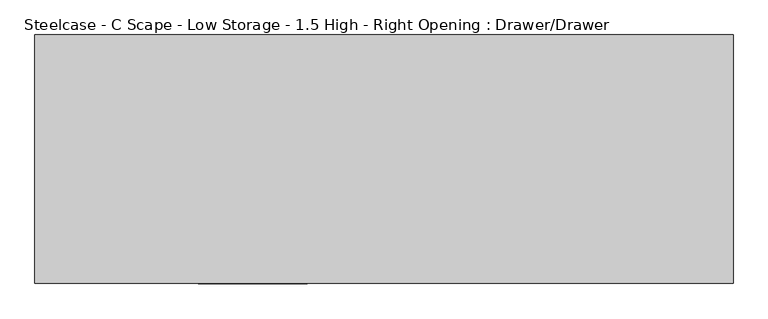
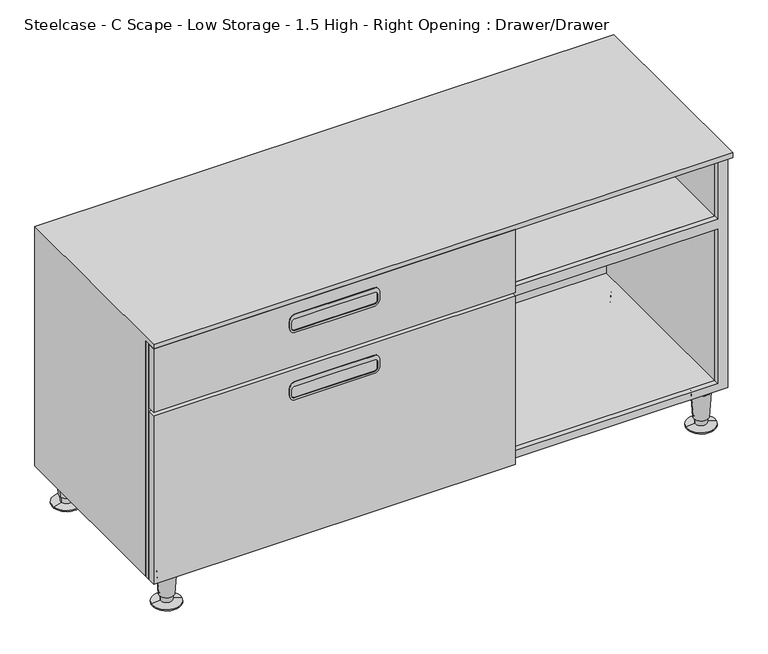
"""IFC4 building model written with IfcOpenShell, lengths in millimetres: furniture geometry, Steelcase - C Scape - Low Storage - 1.5 High - Right Opening : Drawer/Drawer."""

from ifc_helpers import new_model, si_unit, point, frame, frame_2d, origin, place, context, project, spatial, polyline, circle_curve, trimmed, segment, composite_curve, outline, extrude, faceted_brep, source, transform, mapped, element, save
from ifc_brep_helpers import plane_surface, cylinder_surface, revolved_surface, advanced_brep


def steelcase_c_scape_low_storage_1_5_high_right_opening_drawer_06f32d59(model_context):
    return source(origin(), model_context, "Body", "SolidModel", [
        advanced_brep(
        [(1200.2097985, -403.1210225, 0.0), (1141.9877015, -394.2130493, 0.0), (1171.09875, -398.6670359, 0.0), (1200.2097985, -403.1210225, 2.5119506), (1141.9877015, -394.2130493, 2.5119506), (1182.860915, -400.4666456, 5.7545598), (1159.336585, -396.8674262, 5.7545598), (1183.5496845, -400.5720272, 19.05), (1158.6478155, -396.7620445, 19.05), (1185.9792714, -400.9437537, 19.05), (1156.2182286, -396.3903181, 19.05), (1189.9296195, -401.5481565, 76.2), (1152.2678805, -395.7859153, 76.2), (1171.09875, -398.6670359, 76.2)],
        [
            (0, 1, circle_curve(frame((1171.09875, -398.6670359, 0.0), z_axis=(0.0, 0.0, -1.0), x_axis=(0.0, 1.0, 0.0)), 29.4498071)),
            (1, 2),
            (2, 0),
            (1, 0, circle_curve(frame((1171.09875, -398.6670359, 0.0), z_axis=(0.0, 0.0, -1.0), x_axis=(0.0, 1.0, 0.0)), 29.4498071)),
            (3, 4, circle_curve(frame((1171.09875, -398.6670359, 2.5119506), z_axis=(0.0, 0.0, -1.0), x_axis=(0.0, 1.0, 0.0)), 29.4498071)),
            (4, 1),
            (0, 3),
            (4, 3, circle_curve(frame((1171.09875, -398.6670359, 2.5119506), z_axis=(0.0, 0.0, -1.0), x_axis=(0.0, 1.0, 0.0)), 29.4498071)),
            (5, 6, circle_curve(frame((1171.09875, -398.6670359, 5.7545598), z_axis=(0.0, 0.0, -1.0), x_axis=(0.0, 1.0, 0.0)), 11.8990387)),
            (6, 4),
            (3, 5),
            (6, 5, circle_curve(frame((1171.09875, -398.6670359, 5.7545598), z_axis=(0.0, 0.0, -1.0), x_axis=(0.0, 1.0, 0.0)), 11.8990387)),
            (7, 8, circle_curve(frame((1171.09875, -398.6670359, 19.05), z_axis=(0.0, 0.0, -1.0), x_axis=(0.0, 1.0, 0.0)), 12.5958232)),
            (8, 6),
            (5, 7),
            (8, 7, circle_curve(frame((1171.09875, -398.6670359, 19.05), z_axis=(0.0, 0.0, -1.0), x_axis=(0.0, 1.0, 0.0)), 12.5958232)),
            (9, 10, circle_curve(frame((1171.09875, -398.6670359, 19.05), z_axis=(0.0, 0.0, -1.0), x_axis=(0.0, 1.0, 0.0)), 15.0536827)),
            (10, 8),
            (7, 9),
            (10, 9, circle_curve(frame((1171.09875, -398.6670359, 19.05), z_axis=(0.0, 0.0, -1.0), x_axis=(0.0, 1.0, 0.0)), 15.0536827)),
            (11, 12, circle_curve(frame((1171.09875, -398.6670359, 76.2), z_axis=(0.0, 0.0, -1.0), x_axis=(0.0, 1.0, 0.0)), 19.05)),
            (12, 10),
            (9, 11),
            (12, 11, circle_curve(frame((1171.09875, -398.6670359, 76.2), z_axis=(0.0, 0.0, -1.0), x_axis=(0.0, 1.0, 0.0)), 19.05)),
            (13, 12),
            (11, 13),
        ],
        [
            plane_surface(frame((1171.09875, -398.6670359, 0.0), z_axis=(0.0, 0.0, -1.0), x_axis=(0.0, 1.0, 0.0))),
            cylinder_surface(frame((1171.09875, -398.6670359, 25.4), z_axis=(0.0, 0.0, 1.0), x_axis=(0.0, 1.0, 0.0)), 29.4498071),
            revolved_surface(polyline([(1171.09875, -369.2172288, 2.5119506), (1171.09875, -386.7679972, 5.7545598)]), (1171.09875, -398.6670359, 25.4), (0.0, 0.0, 1.0)),
            revolved_surface(polyline([(1171.09875, -386.7679972, 5.7545598), (1171.09875, -386.0712127, 19.05)]), (1171.09875, -398.6670359, 25.4), (0.0, 0.0, 1.0)),
            plane_surface(frame((1171.09875, -398.6670359, 19.05), z_axis=(0.0, 0.0, -1.0), x_axis=(0.0, 1.0, 0.0))),
            revolved_surface(polyline([(1171.09875, -383.6133532, 19.05), (1171.09875, -379.6170359, 76.2)]), (1171.09875, -398.6670359, 25.4), (0.0, 0.0, 1.0)),
            plane_surface(frame((1171.09875, -398.6670359, 76.2), z_axis=(0.0, 0.0, 1.0), x_axis=(0.0, 1.0, 0.0))),
        ],
        [
            (0, [[1, 2, 3]]),
            (0, [[4, -3, -2]]),
            (1, [[5, 6, -1, 7]]),
            (1, [[8, -7, -4, -6]]),
            (2, [[9, 10, -5, 11]]),
            (2, [[12, -11, -8, -10]]),
            (3, [[13, 14, -9, 15]]),
            (3, [[16, -15, -12, -14]]),
            (4, [[17, 18, -13, 19]]),
            (4, [[20, -19, -16, -18]]),
            (5, [[21, 22, -17, 23]]),
            (5, [[24, -23, -20, -22]]),
            (6, [[25, -21, 26]]),
            (6, [[-26, -24, -25]]),
        ],
    ),
        advanced_brep(
        [(75.8224611, -403.1210225, 0.0), (17.6003641, -394.2130493, 0.0), (46.7114126, -398.6670359, 0.0), (75.8224611, -403.1210225, 2.5119506), (17.6003641, -394.2130493, 2.5119506), (58.4735776, -400.4666456, 5.7545598), (34.9492476, -396.8674262, 5.7545598), (59.1623471, -400.5720272, 19.05), (34.2604781, -396.7620445, 19.05), (61.5919341, -400.9437537, 19.05), (31.8308912, -396.3903181, 19.05), (65.5422821, -401.5481565, 76.2), (27.8805432, -395.7859153, 76.2), (46.7114126, -398.6670359, 76.2)],
        [
            (0, 1, circle_curve(frame((46.7114126, -398.6670359, 0.0), z_axis=(0.0, 0.0, -1.0), x_axis=(0.0, 1.0, 0.0)), 29.4498071)),
            (1, 2),
            (2, 0),
            (1, 0, circle_curve(frame((46.7114126, -398.6670359, 0.0), z_axis=(0.0, 0.0, -1.0), x_axis=(0.0, 1.0, 0.0)), 29.4498071)),
            (3, 4, circle_curve(frame((46.7114126, -398.6670359, 2.5119506), z_axis=(0.0, 0.0, -1.0), x_axis=(0.0, 1.0, 0.0)), 29.4498071)),
            (4, 1),
            (0, 3),
            (4, 3, circle_curve(frame((46.7114126, -398.6670359, 2.5119506), z_axis=(0.0, 0.0, -1.0), x_axis=(0.0, 1.0, 0.0)), 29.4498071)),
            (5, 6, circle_curve(frame((46.7114126, -398.6670359, 5.7545598), z_axis=(0.0, 0.0, -1.0), x_axis=(0.0, 1.0, 0.0)), 11.8990387)),
            (6, 4),
            (3, 5),
            (6, 5, circle_curve(frame((46.7114126, -398.6670359, 5.7545598), z_axis=(0.0, 0.0, -1.0), x_axis=(0.0, 1.0, 0.0)), 11.8990387)),
            (7, 8, circle_curve(frame((46.7114126, -398.6670359, 19.05), z_axis=(0.0, 0.0, -1.0), x_axis=(0.0, 1.0, 0.0)), 12.5958232)),
            (8, 6),
            (5, 7),
            (8, 7, circle_curve(frame((46.7114126, -398.6670359, 19.05), z_axis=(0.0, 0.0, -1.0), x_axis=(0.0, 1.0, 0.0)), 12.5958232)),
            (9, 10, circle_curve(frame((46.7114126, -398.6670359, 19.05), z_axis=(0.0, 0.0, -1.0), x_axis=(0.0, 1.0, 0.0)), 15.0536827)),
            (10, 8),
            (7, 9),
            (10, 9, circle_curve(frame((46.7114126, -398.6670359, 19.05), z_axis=(0.0, 0.0, -1.0), x_axis=(0.0, 1.0, 0.0)), 15.0536827)),
            (11, 12, circle_curve(frame((46.7114126, -398.6670359, 76.2), z_axis=(0.0, 0.0, -1.0), x_axis=(0.0, 1.0, 0.0)), 19.05)),
            (12, 10),
            (9, 11),
            (12, 11, circle_curve(frame((46.7114126, -398.6670359, 76.2), z_axis=(0.0, 0.0, -1.0), x_axis=(0.0, 1.0, 0.0)), 19.05)),
            (13, 12),
            (11, 13),
        ],
        [
            plane_surface(frame((46.7114126, -398.6670359, 0.0), z_axis=(0.0, 0.0, -1.0), x_axis=(0.0, 1.0, 0.0))),
            cylinder_surface(frame((46.7114126, -398.6670359, 25.4), z_axis=(0.0, 0.0, 1.0), x_axis=(0.0, 1.0, 0.0)), 29.4498071),
            revolved_surface(polyline([(46.7114126, -369.2172288, 2.5119506), (46.7114126, -386.7679972, 5.7545598)]), (46.7114126, -398.6670359, 25.4), (0.0, 0.0, 1.0)),
            revolved_surface(polyline([(46.7114126, -386.7679972, 5.7545598), (46.7114126, -386.0712127, 19.05)]), (46.7114126, -398.6670359, 25.4), (0.0, 0.0, 1.0)),
            plane_surface(frame((46.7114126, -398.6670359, 19.05), z_axis=(0.0, 0.0, -1.0), x_axis=(0.0, 1.0, 0.0))),
            revolved_surface(polyline([(46.7114126, -383.6133532, 19.05), (46.7114126, -379.6170359, 76.2)]), (46.7114126, -398.6670359, 25.4), (0.0, 0.0, 1.0)),
            plane_surface(frame((46.7114126, -398.6670359, 76.2), z_axis=(0.0, 0.0, 1.0), x_axis=(0.0, 1.0, 0.0))),
        ],
        [
            (0, [[1, 2, 3]]),
            (0, [[4, -3, -2]]),
            (1, [[5, 6, -1, 7]]),
            (1, [[8, -7, -4, -6]]),
            (2, [[9, 10, -5, 11]]),
            (2, [[12, -11, -8, -10]]),
            (3, [[13, 14, -9, 15]]),
            (3, [[16, -15, -12, -14]]),
            (4, [[17, 18, -13, 19]]),
            (4, [[20, -19, -16, -18]]),
            (5, [[21, 22, -17, 23]]),
            (5, [[24, -23, -20, -22]]),
            (6, [[25, -21, 26]]),
            (6, [[-26, -24, -25]]),
        ],
    ),
        extrude(outline(polyline([(599.44, 1217.93), (599.44, 0.0), (76.2, 0.0), (76.2, 1217.93), (599.44, 1217.93)]), holes=[polyline([(436.9435121, 21.3256814), (436.9435121, 738.5047189), (92.7100024, 738.5047189), (92.7100024, 21.3256814), (436.9435121, 21.3256814)]), polyline([(92.7100024, 1196.5961479), (92.7100024, 761.365), (436.9435121, 761.365), (436.9435121, 1196.5961479), (92.7100024, 1196.5961479)]), polyline([(585.724, 1196.5961479), (458.7875121, 1196.5961479), (458.7875121, 761.365), (585.724, 761.365), (585.724, 1196.5961479)]), polyline([(585.724, 21.3382324), (585.724, 738.5047189), (458.7875121, 738.5047189), (458.7875121, 21.3382324), (585.724, 21.3382324)])]), frame((0.0, -415.2912402, 0.0), z_axis=(0.0, 1.0, 0.0), x_axis=(0.0, 0.0, 1.0)), (0.0, 0.0, 1.0), 10.9228992),
        extrude(outline(composite_curve([segment(trimmed(circle_curve(frame_2d((560.7050073, 297.8147442)), 12.7), [point((573.4050073, 297.8147442))], [point((560.7050073, 285.1147442))], False, "CARTESIAN"), True, "CONTINUOUS"), segment(polyline([(560.7050073, 285.1147442), (546.1000363, 285.1147442)]), True, "CONTINUOUS"), segment(trimmed(circle_curve(frame_2d((546.1000363, 297.8147442)), 12.7), [point((546.1000363, 285.1147442))], [point((533.4000363, 297.8147442))], False, "CARTESIAN"), True, "CONTINUOUS"), segment(polyline([(533.4000363, 297.8147442), (533.4000363, 380.0475), (533.4000363, 462.2802558)]), True, "CONTINUOUS"), segment(trimmed(circle_curve(frame_2d((546.1000363, 462.2802558)), 12.7), [point((533.4000363, 462.2802558))], [point((546.1000363, 474.9802558))], False, "CARTESIAN"), True, "CONTINUOUS"), segment(polyline([(546.1000363, 474.9802558), (560.7050073, 474.9802558)]), True, "CONTINUOUS"), segment(trimmed(circle_curve(frame_2d((560.7050073, 462.2802558)), 12.7), [point((560.7050073, 474.9802558))], [point((573.4050073, 462.2802558))], False, "CARTESIAN"), True, "CONTINUOUS"), segment(polyline([(573.4050073, 462.2802558), (573.4050073, 380.0475), (573.4050073, 297.8147442)]), True, "CONTINUOUS")], self_intersect=False), holes=[composite_curve([segment(trimmed(circle_curve(frame_2d((557.2760257, 296.2923565)), 6.35), [point((557.2760257, 289.9423565))], [point((563.6260257, 296.2923565))], True, "CARTESIAN"), True, "CONTINUOUS"), segment(polyline([(563.6260257, 296.2923565), (563.6260257, 380.0475), (563.6260257, 463.8026435)]), True, "CONTINUOUS"), segment(trimmed(circle_curve(frame_2d((557.2760257, 463.8026435)), 6.35), [point((563.6260257, 463.8026435))], [point((557.2760257, 470.1526435))], True, "CARTESIAN"), True, "CONTINUOUS"), segment(polyline([(557.2760257, 470.1526435), (544.5760136, 470.1526435)]), True, "CONTINUOUS"), segment(trimmed(circle_curve(frame_2d((544.5760136, 463.8026435)), 6.35), [point((544.5760136, 470.1526435))], [point((538.2260136, 463.8026435))], True, "CARTESIAN"), True, "CONTINUOUS"), segment(polyline([(538.2260136, 463.8026435), (538.2260136, 380.0475), (538.2260136, 296.2923565)]), True, "CONTINUOUS"), segment(trimmed(circle_curve(frame_2d((544.5760136, 296.2923565)), 6.35), [point((538.2260136, 296.2923565))], [point((544.5760136, 289.9423565))], True, "CARTESIAN"), True, "CONTINUOUS"), segment(polyline([(544.5760136, 289.9423565), (557.2760257, 289.9423565)]), True, "CONTINUOUS")], self_intersect=False)]), frame((0.0, -434.34, 0.0), z_axis=(0.0, 1.0, 0.0), x_axis=(0.0, 0.0, 1.0)), (0.0, 0.0, 1.0), 6.35),
        extrude(outline(composite_curve([segment(trimmed(circle_curve(frame_2d((410.7179932, 297.8147442)), 12.7), [point((423.4179932, 297.8147442))], [point((410.7179932, 285.1147442))], False, "CARTESIAN"), True, "CONTINUOUS"), segment(polyline([(410.7179932, 285.1147442), (396.1130223, 285.1147442)]), True, "CONTINUOUS"), segment(trimmed(circle_curve(frame_2d((396.1130223, 297.8147442)), 12.7), [point((396.1130223, 285.1147442))], [point((383.4130223, 297.8147442))], False, "CARTESIAN"), True, "CONTINUOUS"), segment(polyline([(383.4130223, 297.8147442), (383.4130223, 380.0475), (383.4130223, 462.2802558)]), True, "CONTINUOUS"), segment(trimmed(circle_curve(frame_2d((396.1130223, 462.2802558)), 12.7), [point((383.4130223, 462.2802558))], [point((396.1130223, 474.9802558))], False, "CARTESIAN"), True, "CONTINUOUS"), segment(polyline([(396.1130223, 474.9802558), (410.7179932, 474.9802558)]), True, "CONTINUOUS"), segment(trimmed(circle_curve(frame_2d((410.7179932, 462.2802558)), 12.7), [point((410.7179932, 474.9802558))], [point((423.4179932, 462.2802558))], False, "CARTESIAN"), True, "CONTINUOUS"), segment(polyline([(423.4179932, 462.2802558), (423.4179932, 380.0475), (423.4179932, 297.8147442)]), True, "CONTINUOUS")], self_intersect=False), holes=[composite_curve([segment(trimmed(circle_curve(frame_2d((407.2890116, 296.2923565)), 6.35), [point((407.2890116, 289.9423565))], [point((413.6390116, 296.2923565))], True, "CARTESIAN"), True, "CONTINUOUS"), segment(polyline([(413.6390116, 296.2923565), (413.6390116, 380.0475), (413.6390116, 463.8026435)]), True, "CONTINUOUS"), segment(trimmed(circle_curve(frame_2d((407.2890116, 463.8026435)), 6.35), [point((413.6390116, 463.8026435))], [point((407.2890116, 470.1526435))], True, "CARTESIAN"), True, "CONTINUOUS"), segment(polyline([(407.2890116, 470.1526435), (394.5889995, 470.1526435)]), True, "CONTINUOUS"), segment(trimmed(circle_curve(frame_2d((394.5889995, 463.8026435)), 6.35), [point((394.5889995, 470.1526435))], [point((388.2389995, 463.8026435))], True, "CARTESIAN"), True, "CONTINUOUS"), segment(polyline([(388.2389995, 463.8026435), (388.2389995, 380.0475), (388.2389995, 296.2923565)]), True, "CONTINUOUS"), segment(trimmed(circle_curve(frame_2d((394.5889995, 296.2923565)), 6.35), [point((388.2389995, 296.2923565))], [point((394.5889995, 289.9423565))], True, "CARTESIAN"), True, "CONTINUOUS"), segment(polyline([(394.5889995, 289.9423565), (407.2890116, 289.9423565)]), True, "CONTINUOUS")], self_intersect=False)]), frame((0.0, -434.34, 0.0), z_axis=(0.0, 1.0, 0.0), x_axis=(0.0, 0.0, 1.0)), (0.0, 0.0, 1.0), 6.35),
        advanced_brep(
        [(1189.9296195, -31.5218435, 76.2), (1152.2678805, -37.2840847, 76.2), (1171.09875, -34.4029641, 76.2), (1185.9792714, -32.1262463, 19.05), (1156.2182286, -36.6796819, 19.05), (1183.5496845, -32.4979728, 19.05), (1158.6478155, -36.3079555, 19.05), (1182.860915, -32.6033544, 5.7545598), (1159.336585, -36.2025738, 5.7545598), (1200.2097985, -29.9489775, 2.5119506), (1141.9877015, -38.8569507, 2.5119506), (1200.2097985, -29.9489775, 0.0), (1141.9877015, -38.8569507, 0.0), (1171.09875, -34.4029641, 0.0)],
        [
            (0, 1, circle_curve(frame((1171.09875, -34.4029641, 76.2), z_axis=(0.0, 0.0, 1.0), x_axis=(0.0, -1.0, 0.0)), 19.05)),
            (1, 2),
            (2, 0),
            (1, 0, circle_curve(frame((1171.09875, -34.4029641, 76.2), z_axis=(0.0, 0.0, 1.0), x_axis=(0.0, -1.0, 0.0)), 19.05)),
            (3, 4, circle_curve(frame((1171.09875, -34.4029641, 19.05), z_axis=(0.0, 0.0, 1.0), x_axis=(0.0, -1.0, 0.0)), 15.0536827)),
            (4, 1),
            (0, 3),
            (4, 3, circle_curve(frame((1171.09875, -34.4029641, 19.05), z_axis=(0.0, 0.0, 1.0), x_axis=(0.0, -1.0, 0.0)), 15.0536827)),
            (5, 6, circle_curve(frame((1171.09875, -34.4029641, 19.05), z_axis=(0.0, 0.0, 1.0), x_axis=(0.0, -1.0, 0.0)), 12.5958232)),
            (6, 4),
            (3, 5),
            (6, 5, circle_curve(frame((1171.09875, -34.4029641, 19.05), z_axis=(0.0, 0.0, 1.0), x_axis=(0.0, -1.0, 0.0)), 12.5958232)),
            (7, 8, circle_curve(frame((1171.09875, -34.4029641, 5.7545598), z_axis=(0.0, 0.0, 1.0), x_axis=(0.0, -1.0, 0.0)), 11.8990387)),
            (8, 6),
            (5, 7),
            (8, 7, circle_curve(frame((1171.09875, -34.4029641, 5.7545598), z_axis=(0.0, 0.0, 1.0), x_axis=(0.0, -1.0, 0.0)), 11.8990387)),
            (9, 10, circle_curve(frame((1171.09875, -34.4029641, 2.5119506), z_axis=(0.0, 0.0, 1.0), x_axis=(0.0, -1.0, 0.0)), 29.4498071)),
            (10, 8),
            (7, 9),
            (10, 9, circle_curve(frame((1171.09875, -34.4029641, 2.5119506), z_axis=(0.0, 0.0, 1.0), x_axis=(0.0, -1.0, 0.0)), 29.4498071)),
            (11, 12, circle_curve(frame((1171.09875, -34.4029641, 0.0), z_axis=(0.0, 0.0, 1.0), x_axis=(0.0, -1.0, 0.0)), 29.4498071)),
            (12, 10),
            (9, 11),
            (12, 11, circle_curve(frame((1171.09875, -34.4029641, 0.0), z_axis=(0.0, 0.0, 1.0), x_axis=(0.0, -1.0, 0.0)), 29.4498071)),
            (13, 12),
            (11, 13),
        ],
        [
            plane_surface(frame((1171.09875, -34.4029641, 76.2), z_axis=(0.0, 0.0, 1.0), x_axis=(0.0, -1.0, 0.0))),
            revolved_surface(polyline([(1171.09875, -53.4529641, 76.2), (1171.09875, -49.4566468, 19.05)]), (1171.09875, -34.4029641, 25.4), (0.0, 0.0, -1.0)),
            plane_surface(frame((1171.09875, -34.4029641, 19.05), z_axis=(0.0, 0.0, -1.0), x_axis=(0.0, -1.0, 0.0))),
            revolved_surface(polyline([(1171.09875, -46.9987873, 19.05), (1171.09875, -46.3020028, 5.7545598)]), (1171.09875, -34.4029641, 25.4), (0.0, 0.0, -1.0)),
            revolved_surface(polyline([(1171.09875, -46.3020028, 5.7545598), (1171.09875, -63.8527712, 2.5119506)]), (1171.09875, -34.4029641, 25.4), (0.0, 0.0, -1.0)),
            cylinder_surface(frame((1171.09875, -34.4029641, 25.4), z_axis=(0.0, 0.0, -1.0), x_axis=(0.0, -1.0, 0.0)), 29.4498071),
            plane_surface(frame((1171.09875, -34.4029641, 0.0), z_axis=(0.0, 0.0, -1.0), x_axis=(0.0, -1.0, 0.0))),
        ],
        [
            (0, [[1, 2, 3]]),
            (0, [[4, -3, -2]]),
            (1, [[5, 6, -1, 7]]),
            (1, [[8, -7, -4, -6]]),
            (2, [[9, 10, -5, 11]]),
            (2, [[12, -11, -8, -10]]),
            (3, [[13, 14, -9, 15]]),
            (3, [[16, -15, -12, -14]]),
            (4, [[17, 18, -13, 19]]),
            (4, [[20, -19, -16, -18]]),
            (5, [[21, 22, -17, 23]]),
            (5, [[24, -23, -20, -22]]),
            (6, [[25, -21, 26]]),
            (6, [[-26, -24, -25]]),
        ],
    ),
        advanced_brep(
        [(65.5422821, -31.5218435, 76.2), (27.8805432, -37.2840847, 76.2), (46.7114126, -34.4029641, 76.2), (61.5919341, -32.1262463, 19.05), (31.8308912, -36.6796819, 19.05), (59.1623471, -32.4979728, 19.05), (34.2604781, -36.3079555, 19.05), (58.4735776, -32.6033544, 5.7545598), (34.9492476, -36.2025738, 5.7545598), (75.8224611, -29.9489775, 2.5119506), (17.6003641, -38.8569507, 2.5119506), (75.8224611, -29.9489775, 0.0), (17.6003641, -38.8569507, 0.0), (46.7114126, -34.4029641, 0.0)],
        [
            (0, 1, circle_curve(frame((46.7114126, -34.4029641, 76.2), z_axis=(0.0, 0.0, 1.0), x_axis=(0.0, -1.0, 0.0)), 19.05)),
            (1, 2),
            (2, 0),
            (1, 0, circle_curve(frame((46.7114126, -34.4029641, 76.2), z_axis=(0.0, 0.0, 1.0), x_axis=(0.0, -1.0, 0.0)), 19.05)),
            (3, 4, circle_curve(frame((46.7114126, -34.4029641, 19.05), z_axis=(0.0, 0.0, 1.0), x_axis=(0.0, -1.0, 0.0)), 15.0536827)),
            (4, 1),
            (0, 3),
            (4, 3, circle_curve(frame((46.7114126, -34.4029641, 19.05), z_axis=(0.0, 0.0, 1.0), x_axis=(0.0, -1.0, 0.0)), 15.0536827)),
            (5, 6, circle_curve(frame((46.7114126, -34.4029641, 19.05), z_axis=(0.0, 0.0, 1.0), x_axis=(0.0, -1.0, 0.0)), 12.5958232)),
            (6, 4),
            (3, 5),
            (6, 5, circle_curve(frame((46.7114126, -34.4029641, 19.05), z_axis=(0.0, 0.0, 1.0), x_axis=(0.0, -1.0, 0.0)), 12.5958232)),
            (7, 8, circle_curve(frame((46.7114126, -34.4029641, 5.7545598), z_axis=(0.0, 0.0, 1.0), x_axis=(0.0, -1.0, 0.0)), 11.8990387)),
            (8, 6),
            (5, 7),
            (8, 7, circle_curve(frame((46.7114126, -34.4029641, 5.7545598), z_axis=(0.0, 0.0, 1.0), x_axis=(0.0, -1.0, 0.0)), 11.8990387)),
            (9, 10, circle_curve(frame((46.7114126, -34.4029641, 2.5119506), z_axis=(0.0, 0.0, 1.0), x_axis=(0.0, -1.0, 0.0)), 29.4498071)),
            (10, 8),
            (7, 9),
            (10, 9, circle_curve(frame((46.7114126, -34.4029641, 2.5119506), z_axis=(0.0, 0.0, 1.0), x_axis=(0.0, -1.0, 0.0)), 29.4498071)),
            (11, 12, circle_curve(frame((46.7114126, -34.4029641, 0.0), z_axis=(0.0, 0.0, 1.0), x_axis=(0.0, -1.0, 0.0)), 29.4498071)),
            (12, 10),
            (9, 11),
            (12, 11, circle_curve(frame((46.7114126, -34.4029641, 0.0), z_axis=(0.0, 0.0, 1.0), x_axis=(0.0, -1.0, 0.0)), 29.4498071)),
            (13, 12),
            (11, 13),
        ],
        [
            plane_surface(frame((46.7114126, -34.4029641, 76.2), z_axis=(0.0, 0.0, 1.0), x_axis=(0.0, -1.0, 0.0))),
            revolved_surface(polyline([(46.7114126, -53.4529641, 76.2), (46.7114126, -49.4566468, 19.05)]), (46.7114126, -34.4029641, 25.4), (0.0, 0.0, -1.0)),
            plane_surface(frame((46.7114126, -34.4029641, 19.05), z_axis=(0.0, 0.0, -1.0), x_axis=(0.0, -1.0, 0.0))),
            revolved_surface(polyline([(46.7114126, -46.9987873, 19.05), (46.7114126, -46.3020028, 5.7545598)]), (46.7114126, -34.4029641, 25.4), (0.0, 0.0, -1.0)),
            revolved_surface(polyline([(46.7114126, -46.3020028, 5.7545598), (46.7114126, -63.8527712, 2.5119506)]), (46.7114126, -34.4029641, 25.4), (0.0, 0.0, -1.0)),
            cylinder_surface(frame((46.7114126, -34.4029641, 25.4), z_axis=(0.0, 0.0, -1.0), x_axis=(0.0, -1.0, 0.0)), 29.4498071),
            plane_surface(frame((46.7114126, -34.4029641, 0.0), z_axis=(0.0, 0.0, -1.0), x_axis=(0.0, -1.0, 0.0))),
        ],
        [
            (0, [[1, 2, 3]]),
            (0, [[4, -3, -2]]),
            (1, [[5, 6, -1, 7]]),
            (1, [[8, -7, -4, -6]]),
            (2, [[9, 10, -5, 11]]),
            (2, [[12, -11, -8, -10]]),
            (3, [[13, 14, -9, 15]]),
            (3, [[16, -15, -12, -14]]),
            (4, [[17, 18, -13, 19]]),
            (4, [[20, -19, -16, -18]]),
            (5, [[21, 22, -17, 23]]),
            (5, [[24, -23, -20, -22]]),
            (6, [[25, -21, 26]]),
            (6, [[-26, -24, -25]]),
        ],
    ),
        extrude(outline(polyline([(760.73, -415.2912402), (760.73, -433.07), (0.0, -433.07), (0.0, -415.2912402), (760.73, -415.2912402)])), frame((0.0, 0.0, 458.7875121), z_axis=(0.0, 0.0, 1.0), x_axis=(1.0, 0.0, 0.0)), (0.0, 0.0, 1.0), 140.6524879),
        faceted_brep([(0.0, 0.0, 609.6), (1217.93, 0.0, 609.6), (1217.93, 0.0, 76.2), (0.0, 0.0, 76.2), (0.0, -433.07, 609.6), (0.0, -404.3683411, 76.2), (0.0, -404.3683411, 599.44), (0.0, -433.07, 599.44), (21.3382324, -404.3683411, 599.44), (1217.93, -404.3683411, 76.2), (1217.93, -404.3683411, 599.44), (1196.5961479, -404.3683411, 599.44), (1196.5961479, -404.3683411, 458.7875121), (760.73, -404.3683411, 458.7875121), (760.73, -404.3683411, 599.44), (754.3812797, -404.3683411, 599.44), (754.3812797, -404.3683411, 458.7875121), (21.3382324, -404.3683411, 458.7875121), (1196.5961479, -404.3683411, 450.8499879), (1196.5961479, -404.3683411, 92.7100024), (760.73, -404.3683411, 92.7100024), (760.73, -404.3683411, 450.8499879), (754.3812797, -404.3683411, 450.8499879), (754.3812797, -404.3683411, 92.7100024), (21.3382324, -404.3683411, 92.7100024), (21.3382324, -404.3683411, 450.8499879), (21.3382324, -9.525, 599.44), (21.3382324, -9.525, 458.7875121), (21.3382324, -9.525, 92.7100024), (21.3382324, -9.525, 450.8499879), (754.3812797, -9.525, 599.44), (754.3812797, -9.525, 458.7875121), (754.3812797, -9.525, 92.7100024), (754.3812797, -9.525, 450.8499879), (760.73, -9.525, 599.44), (760.73, -9.525, 458.7875121), (760.73, -9.525, 92.7100024), (760.73, -9.525, 450.8499879), (1196.5961479, -9.525, 599.44), (1196.5961479, -9.525, 458.7875121), (1196.5961479, -9.525, 92.7100024), (1196.5961479, -9.525, 450.8499879), (1217.93, -433.07, 609.6), (1217.93, -433.07, 599.44)], [[[0, 1, 2, 3]], [[4, 0, 3, 5, 6, 7]], [[8, 6, 5, 9, 10, 11, 12, 13, 14, 15, 16, 17], [18, 19, 20, 21], [22, 23, 24, 25]], [[26, 8, 17, 27]], [[25, 24, 28, 29]], [[30, 26, 27, 31]], [[29, 28, 32, 33]], [[15, 30, 31, 16]], [[33, 32, 23, 22]], [[34, 14, 13, 35]], [[21, 20, 36, 37]], [[38, 34, 35, 39]], [[37, 36, 40, 41]], [[11, 38, 39, 12]], [[41, 40, 19, 18]], [[2, 1, 42, 43, 10, 9]], [[1, 0, 4, 42]], [[43, 7, 6, 8, 26, 30, 15, 14, 34, 38, 11, 10]], [[42, 4, 7, 43]], [[13, 12, 39, 35]], [[17, 16, 31, 27]], [[18, 21, 37, 41]], [[22, 25, 29, 33]], [[20, 19, 40, 36]], [[24, 23, 32, 28]], [[2, 9, 5, 3]]]),
        extrude(outline(polyline([(760.73, -415.2912402), (760.73, -433.07), (0.0, -433.07), (0.0, -415.2912402), (760.73, -415.2912402)])), frame((0.0, 0.0, 76.2), z_axis=(0.0, 0.0, 1.0), x_axis=(1.0, 0.0, 0.0)), (0.0, 0.0, 1.0), 374.6499879),
    ])


if __name__ == "__main__":
    model = new_model("IFC4")
    model_context = context("Model", 3, world=origin())
    ifc_project = project(units=[si_unit("LENGTHUNIT", "METRE", prefix="MILLI")], contexts=[model_context])
    site = spatial("IfcSite", under=ifc_project)
    building = spatial("IfcBuilding", under=site)
    placement = place(None, origin())
    steelcase_c_scape_low_storage_1_5_high_right_opening_drawer_shape = steelcase_c_scape_low_storage_1_5_high_right_opening_drawer_06f32d59(model_context)
    element("IfcFurniture", 1, ObjectType="Steelcase - C Scape - Low Storage - 1.5 High - Right Opening : Drawer/Drawer", at=placement, inside=building, context=model_context, shape_type="MappedRepresentation", body=[
        mapped(steelcase_c_scape_low_storage_1_5_high_right_opening_drawer_shape, transform((0.0, 0.0, 0.0), x_axis=(1.0, 0.0, 0.0), y_axis=(0.0, 1.0, 0.0), z_axis=(0.0, 0.0, 1.0))),
    ])
    save(model, "model.ifc")
